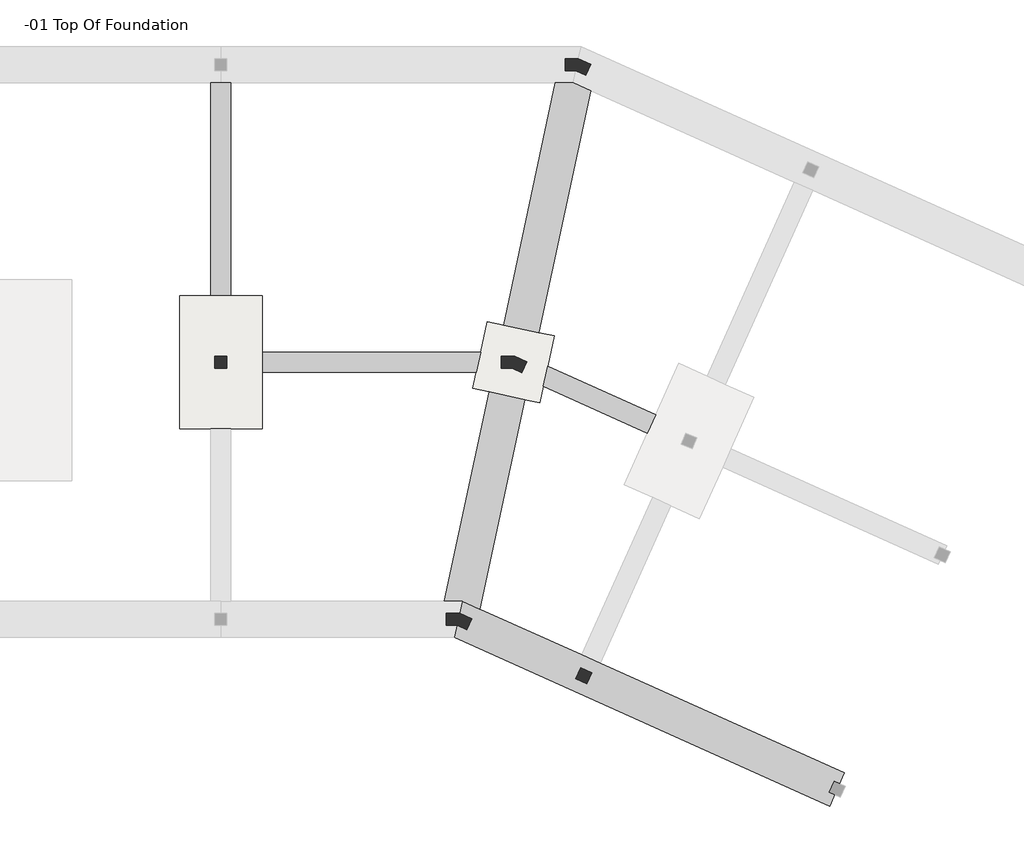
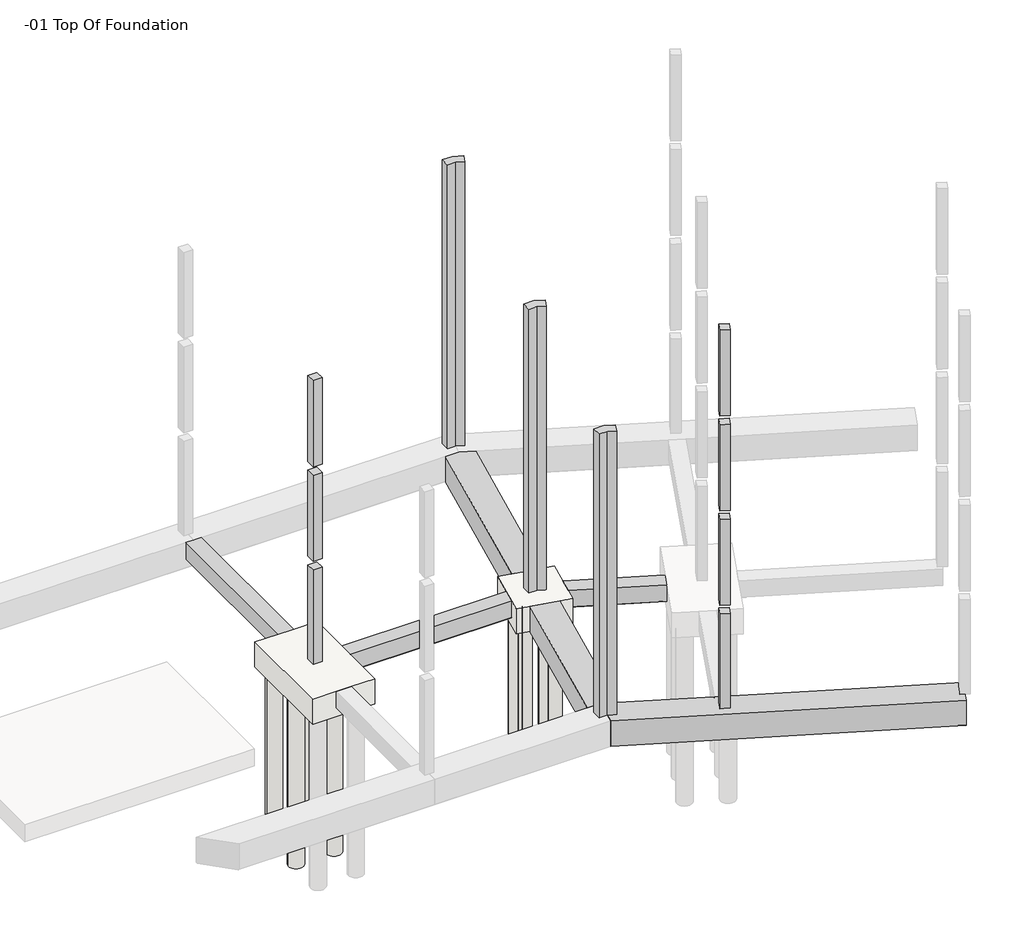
# One storey, part 3 of 4: 10 slabs, 5 beams, 5 columns.
"""IFC4 building model written with IfcOpenShell, lengths in millimetres."""

from ifc_helpers import new_model, si_unit, point, frame, frame_2d, origin, place, context, project, spatial, polyline, circle_curve, ellipse_curve, trimmed, segment, composite_curve, outline, extrude, faceted_brep, element, save
from ifc_brep_helpers import plane_surface, cylinder_surface, revolved_surface, advanced_brep

model = new_model("IFC4")

# Units and contexts
model_context = context("Model", 3, world=origin())
ifc_project = project(units=[si_unit("LENGTHUNIT", "METRE", prefix="MILLI")], contexts=[model_context])

# Site, building, storey
site = spatial("IfcSite", under=ifc_project)
building = spatial("IfcBuilding", under=site)
storey = spatial("IfcBuildingStorey", under=building, Name="-01 Top Of Foundation", Elevation=-304.8)

# Beams
placement = place(None, origin())
element("IfcBeam", 1, ObjectType="Ring Beam : 12 x 24", at=placement, inside=storey, context=model_context, shape_type="Brep", body=[
    faceted_brep([(30254.0535171, -7606.2877938, -304.8), (30145.1963742, -8114.2877938, -304.8), (32770.921512, -9293.7579091, -304.8), (32979.0776096, -8830.3627872, -304.8), (30145.1963742, -8114.2877938, -889.0), (32770.921512, -9293.7579091, -889.0), (30150.6392314, -8088.8877938, -914.4), (32781.3293169, -9270.588153, -914.4), (30248.61066, -7631.6877938, -914.4), (32968.6698047, -8853.5325433, -914.4), (30254.0535171, -7606.2877938, -889.0), (32979.0776096, -8830.3627872, -889.0)], [[[0, 1, 2, 3]], [[1, 4, 5, 2]], [[4, 6, 7, 5]], [[6, 8, 9, 7]], [[8, 10, 11, 9]], [[10, 0, 3, 11]], [[1, 0, 10, 8, 6, 4]], [[3, 2, 5, 7, 9, 11]]]),
])
element("IfcBeam", 2, ObjectType="Ring Beam : 12 x 24", at=placement, inside=storey, context=model_context, shape_type="Brep", body=[
    faceted_brep([(23050.5, -7251.7, -304.8), (23050.5, -7759.7, -304.8), (28454.7694343, -7759.7, -304.8), (28563.6265772, -7251.7, -304.8), (23050.5, -7759.7, -889.0), (28454.7694343, -7759.7, -889.0), (23050.5, -7734.3, -914.4), (28460.2122914, -7734.3, -914.4), (23050.5, -7277.1, -914.4), (28558.18372, -7277.1, -914.4), (23050.5, -7251.7, -889.0), (28563.6265772, -7251.7, -889.0)], [[[0, 1, 2, 3]], [[1, 4, 5, 2]], [[4, 6, 7, 5]], [[6, 8, 9, 7]], [[8, 10, 11, 9]], [[10, 0, 3, 11]], [[1, 0, 10, 8, 6, 4]], [[3, 2, 5, 7, 9, 11]]]),
])
element("IfcBeam", 3, ObjectType="Ring Beam : 12 x 24", at=placement, inside=storey, context=model_context, shape_type="Brep", body=[
    faceted_brep([(22263.1, -457.2, -304.8), (22009.1, -457.2, -304.8), (21755.1, -457.2, -304.8), (21755.1, -5829.3, -304.8), (22263.1, -5829.3, -304.8), (22263.1, -457.2, -889.0), (22263.1, -5829.3, -889.0), (22237.7, -457.2, -914.4), (22237.7, -5829.3, -914.4), (21780.5, -457.2, -914.4), (21780.5, -5829.3, -914.4), (21755.1, -457.2, -889.0), (21755.1, -5829.3, -889.0)], [[[0, 1, 2, 3, 4]], [[5, 0, 4, 6]], [[7, 5, 6, 8]], [[9, 7, 8, 10]], [[11, 9, 10, 12]], [[2, 11, 12, 3]], [[0, 5, 7, 9, 11, 2, 1]], [[4, 3, 12, 10, 8, 6]]]),
])
element("IfcBeam", 4, ObjectType="Ring Beam : 16 x 32", at=placement, inside=storey, context=model_context, shape_type="Brep", body=[
    faceted_brep([(28099.7244536, -13538.2, -304.8), (28034.4101679, -13843.0, -304.8), (27969.0988162, -14147.786308, -304.8), (27903.7815965, -14452.6, -304.8), (37370.2819449, -18704.9317073, -304.8), (37474.3599937, -18473.2341463, -304.8), (37744.9629205, -17870.8204878, -304.8), (31581.8077985, -15102.3443902, -304.8), (31118.4126766, -14894.1882927, -304.8), (28542.523194, -13737.104247, -304.8), (27903.7815965, -14452.6, -1193.8), (37370.2819449, -18704.9317073, -1193.8), (27909.2244536, -14427.2, -1219.2), (37380.6897498, -18681.7619512, -1219.2), (28094.2815965, -13563.6, -1219.2), (28513.3845925, -13751.8601693, -1219.2), (37734.5551156, -17893.9902439, -1219.2), (28099.7244536, -13538.2, -1193.8), (28542.523194, -13737.104247, -1193.8), (37744.9629205, -17870.8204878, -1193.8)], [[[0, 1, 2, 3, 4, 5, 6, 7, 8, 9]], [[3, 10, 11, 4]], [[10, 12, 13, 11]], [[12, 14, 15, 16, 13]], [[14, 17, 18, 19, 16, 15]], [[17, 0, 9, 8, 7, 6, 19, 18]], [[0, 17, 14, 12, 10, 3, 2, 1]], [[4, 11, 13, 16, 19, 6, 5]]]),
])
element("IfcBeam", 5, ObjectType="Ring Beam : 16 x 32", at=placement, inside=storey, context=model_context, shape_type="AdvancedBrep", body=[
    advanced_brep(
    [(31345.5946226, -656.104247, -304.8), (30902.7958822, -457.2, -304.8), (30453.0587055, -457.2, -304.8), (29143.3597284, -6569.12856, -304.8), (30037.4622558, -6760.7219587, -304.8), (31345.5946226, -656.104247, -1193.8), (30037.4622558, -6760.7219587, -1193.8), (31327.3417353, -620.0601693, -1219.2), (29994.728735, -6960.1450558, -1193.8), (29970.017132, -6954.2416514, -1219.2), (28513.3845925, -13751.8601693, -1219.2), (28094.2815965, -13563.6, -1219.2), (27670.521038, -13563.6, -1219.2), (28849.8308143, -8060.1543772, -1219.2), (29048.2445125, -7899.5308752, -1219.2), (28933.0689643, -7671.7096775, -1219.2), (29041.4242131, -7166.0518498, -1219.2), (29239.8379112, -7005.4283477, -1219.2), (29124.662363, -6777.60715, -1219.2), (30484.4781809, -431.8, -1219.2), (30908.2387393, -431.8, -1219.2), (29736.5615376, -7111.8691248, -1219.2), (29884.9297736, -7351.3159905, -1219.2), (29778.4237333, -7848.3441788, -1219.2), (29544.9681388, -8005.9716523, -1219.2), (29693.3363749, -8245.418518, -1219.2), (30453.0587055, -457.2, -1193.8), (29100.6262076, -6768.551657, -1193.8), (29143.3597284, -6569.12856, -1193.8), (28542.523194, -13737.104247, -1193.8), (28099.7244536, -13538.2, -1193.8), (28542.523194, -13737.104247, -304.8), (28099.7244536, -13538.2, -304.8), (30902.7958822, -457.2, -1193.8), (27649.987277, -13538.2, -1193.8), (27649.987277, -13538.2, -304.8), (28781.4610863, -8257.9888896, -1193.8), (29675.5636138, -8449.5822883, -1193.8), (29718.2971346, -8250.1591913, -1193.8), (29544.9681388, -8005.9716523, -1193.8), (29803.1353363, -7854.2475832, -1193.8), (29909.8905333, -7356.0566638, -1193.8), (29736.5615376, -7111.8691248, -1193.8), (29239.8379112, -7005.4283477, -1193.8), (29015.7880059, -7164.4632651, -1193.8), (28909.0328089, -7662.6541845, -1193.8), (29048.2445125, -7899.5308752, -1193.8), (28824.1946071, -8058.5657925, -1193.8), (28781.4610863, -8257.9888896, -304.8), (29675.5636138, -8449.5822883, -304.8)],
    [
        (0, 1),
        (1, 2),
        (2, 3),
        (3, 4),
        (4, 0),
        (5, 0),
        (4, 6),
        (6, 5),
        (7, 5),
        (6, 8),
        (8, 9, ellipse_curve(frame((29935.2509881, -7154.4454357, -1211.245903), z_axis=(-0.691410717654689, 0.14815943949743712, 0.7071067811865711), x_axis=(0.691410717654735, -0.14815943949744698, 0.7071067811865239)), 287.3681959, 203.2)),
        (9, 7),
        (10, 11),
        (11, 12),
        (12, 13),
        (13, 14, circle_curve(frame((28849.5550619, -7856.9545643, -1219.2), z_axis=(0.0, 0.0, 1.0), x_axis=(-0.977802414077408, 0.20952908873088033, 0.0)), 203.2)),
        (14, 15, circle_curve(frame((28849.5550619, -7856.9545643, -1219.2), z_axis=(0.0, 0.0, 1.0), x_axis=(-0.977802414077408, 0.20952908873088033, 0.0)), 203.2)),
        (15, 16),
        (16, 17, circle_curve(frame((29041.1484607, -6962.8520369, -1219.2), z_axis=(0.0, 0.0, 1.0), x_axis=(-0.977802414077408, 0.20952908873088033, 0.0)), 203.2)),
        (17, 18, circle_curve(frame((29041.1484607, -6962.8520369, -1219.2), z_axis=(0.0, 0.0, 1.0), x_axis=(-0.977802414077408, 0.20952908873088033, 0.0)), 203.2)),
        (18, 19),
        (19, 20),
        (20, 7),
        (9, 21, circle_curve(frame((29935.2509881, -7154.4454357, -1219.2), z_axis=(0.0, 0.0, 1.0), x_axis=(-0.977802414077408, 0.20952908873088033, 0.0)), 203.2)),
        (21, 22, circle_curve(frame((29935.2509881, -7154.4454357, -1219.2), z_axis=(0.0, 0.0, 1.0), x_axis=(-0.977802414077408, 0.20952908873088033, 0.0)), 203.2)),
        (22, 23),
        (23, 24, circle_curve(frame((29743.6575894, -8048.5479631, -1219.2), z_axis=(0.0, 0.0, 1.0), x_axis=(-0.977802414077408, 0.20952908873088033, 0.0)), 203.2)),
        (24, 25, circle_curve(frame((29743.6575894, -8048.5479631, -1219.2), z_axis=(0.0, 0.0, 1.0), x_axis=(-0.977802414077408, 0.20952908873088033, 0.0)), 203.2)),
        (25, 10),
        (26, 19),
        (18, 27, ellipse_curve(frame((29041.1484607, -6962.8520369, -1176.354097), z_axis=(0.691410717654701, -0.14815943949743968, 0.7071067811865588), x_axis=(-0.691410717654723, 0.1481594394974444, 0.7071067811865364)), 287.3681959, 203.2)),
        (27, 28),
        (28, 26),
        (2, 26),
        (28, 3),
        (29, 30),
        (30, 11),
        (10, 29),
        (29, 31),
        (31, 32),
        (32, 30),
        (5, 33),
        (33, 1),
        (20, 33),
        (33, 26),
        (30, 34),
        (34, 12),
        (32, 35),
        (35, 34),
        (36, 37),
        (37, 38),
        (38, 39, circle_curve(frame((29743.6575894, -8048.5479631, -1193.8), z_axis=(0.0, 0.0, -1.0), x_axis=(-0.977802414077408, 0.20952908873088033, 0.0)), 203.2)),
        (39, 40, circle_curve(frame((29743.6575894, -8048.5479631, -1193.8), z_axis=(0.0, 0.0, -1.0), x_axis=(-0.977802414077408, 0.20952908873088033, 0.0)), 203.2)),
        (40, 41),
        (41, 42, circle_curve(frame((29935.2509881, -7154.4454357, -1193.8), z_axis=(0.0, 0.0, -1.0), x_axis=(-0.977802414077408, 0.20952908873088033, 0.0)), 203.2)),
        (42, 8, circle_curve(frame((29935.2509881, -7154.4454357, -1193.8), z_axis=(0.0, 0.0, -1.0), x_axis=(-0.977802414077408, 0.20952908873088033, 0.0)), 203.2)),
        (6, 28),
        (27, 43, circle_curve(frame((29041.1484607, -6962.8520369, -1193.8), z_axis=(0.0, 0.0, -1.0), x_axis=(-0.977802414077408, 0.20952908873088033, 0.0)), 203.2)),
        (43, 44, circle_curve(frame((29041.1484607, -6962.8520369, -1193.8), z_axis=(0.0, 0.0, -1.0), x_axis=(-0.977802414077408, 0.20952908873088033, 0.0)), 203.2)),
        (44, 45),
        (45, 46, circle_curve(frame((28849.5550619, -7856.9545643, -1193.8), z_axis=(0.0, 0.0, -1.0), x_axis=(-0.977802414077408, 0.20952908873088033, 0.0)), 203.2)),
        (46, 47, circle_curve(frame((28849.5550619, -7856.9545643, -1193.8), z_axis=(0.0, 0.0, -1.0), x_axis=(-0.977802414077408, 0.20952908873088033, 0.0)), 203.2)),
        (47, 36),
        (36, 48),
        (48, 49),
        (49, 37),
        (31, 49),
        (48, 35),
        (29, 37),
        (36, 34),
        (39, 24),
        (23, 40, ellipse_curve(frame((29743.6575894, -8048.5479631, -1211.245903), z_axis=(0.691410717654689, -0.14815943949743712, -0.7071067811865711), x_axis=(0.691410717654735, -0.14815943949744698, 0.7071067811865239)), 287.3681959, 203.2)),
        (38, 25, ellipse_curve(frame((29743.6575894, -8048.5479631, -1211.245903), z_axis=(0.691410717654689, -0.14815943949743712, -0.7071067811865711), x_axis=(0.691410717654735, -0.14815943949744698, 0.7071067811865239)), 287.3681959, 203.2)),
        (42, 21),
        (41, 22, ellipse_curve(frame((29935.2509881, -7154.4454357, -1211.245903), z_axis=(0.691410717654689, -0.14815943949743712, -0.7071067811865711), x_axis=(0.691410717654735, -0.14815943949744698, 0.7071067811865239)), 287.3681959, 203.2)),
        (17, 43),
        (16, 44, ellipse_curve(frame((29041.1484607, -6962.8520369, -1176.354097), z_axis=(-0.691410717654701, 0.14815943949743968, -0.7071067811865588), x_axis=(-0.691410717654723, 0.1481594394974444, 0.7071067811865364)), 287.3681959, 203.2)),
        (15, 45, ellipse_curve(frame((28849.5550619, -7856.9545643, -1176.354097), z_axis=(0.691410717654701, -0.14815943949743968, 0.7071067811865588), x_axis=(-0.691410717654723, 0.1481594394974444, 0.7071067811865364)), 287.3681959, 203.2)),
        (14, 46),
        (13, 47, ellipse_curve(frame((28849.5550619, -7856.9545643, -1176.354097), z_axis=(-0.691410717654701, 0.14815943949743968, -0.7071067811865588), x_axis=(-0.691410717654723, 0.1481594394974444, 0.7071067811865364)), 287.3681959, 203.2)),
    ],
    [
        plane_surface(frame((30448.8310757, -476.928939, -304.8), z_axis=(0.0, 0.0, 1.0), x_axis=(-0.20952908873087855, -0.9778024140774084, 0.0))),
        plane_surface(frame((31342.9336032, -668.5223377, -304.8), z_axis=(0.9778024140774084, -0.20952908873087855, 0.0), x_axis=(-0.20952908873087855, -0.9778024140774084, 0.0))),
        plane_surface(frame((31342.9336032, -668.5223377, -1193.8), z_axis=(0.691410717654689, -0.14815943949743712, -0.7071067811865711), x_axis=(-0.20952908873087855, -0.9778024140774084, 0.0))),
        plane_surface(frame((31318.0974219, -663.2002988, -1219.2), z_axis=(0.0, 0.0, -1.0), x_axis=(-0.20952908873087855, -0.9778024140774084, 0.0))),
        plane_surface(frame((30473.6672571, -482.2509778, -1219.2), z_axis=(-0.691410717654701, 0.14815943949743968, -0.7071067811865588), x_axis=(-0.20952908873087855, -0.9778024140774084, 0.0))),
        plane_surface(frame((30448.8310757, -476.928939, -1193.8), z_axis=(-0.9778024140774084, 0.20952908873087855, 0.0), x_axis=(-0.20952908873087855, -0.9778024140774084, 0.0))),
        plane_surface(frame((37722.9702376, -17888.7863415, -1219.2), z_axis=(-0.28974131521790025, -0.6450193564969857, 0.7071067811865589), x_axis=(-0.9121951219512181, 0.4097560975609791, 0.0))),
        plane_surface(frame((37733.3780425, -17865.6165854, -1193.8), z_axis=(-0.4097560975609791, -0.9121951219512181, 0.0), x_axis=(-0.9121951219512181, 0.4097560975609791, 0.0))),
        plane_surface(frame((43093.3975546, -5933.1921951, -304.8), z_axis=(0.4097560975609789, 0.9121951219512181, 0.0), x_axis=(-0.9121951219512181, 0.4097560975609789, 0.0))),
        plane_surface(frame((43093.3975546, -5933.1921951, -1193.8), z_axis=(0.2897413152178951, 0.6450193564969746, 0.7071067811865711), x_axis=(-0.9121951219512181, 0.4097560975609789, 0.0))),
        plane_surface(frame((30800.7268229, -457.2, -304.8), z_axis=(0.0, 1.0, 0.0), x_axis=(-1.0, 0.0, 0.0))),
        plane_surface(frame((30800.7268229, -457.2, -1193.8), z_axis=(0.0, 0.707106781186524, 0.7071067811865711), x_axis=(-1.0, 0.0, 0.0))),
        plane_surface(frame((27801.7125372, -13563.6, -1219.2), z_axis=(0.0, -0.7071067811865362, 0.7071067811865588), x_axis=(-1.0, 0.0, 0.0))),
        plane_surface(frame((27801.7125372, -13538.2, -1193.8), z_axis=(0.0, -1.0, 0.0), x_axis=(-1.0, 0.0, 0.0))),
        plane_surface(frame((30055.8838688, -8531.0794858, -1193.8), z_axis=(0.0, 0.0, 1.0000000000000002), x_axis=(-0.9778024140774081, 0.20952908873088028, 0.0))),
        plane_surface(frame((28367.0235392, -8169.1808438, -304.8), z_axis=(0.20952908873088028, 0.9778024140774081, 0.0), x_axis=(0.0, 0.0, -1.0))),
        plane_surface(frame((30417.7825109, -6842.2191562, -304.8), z_axis=(-0.20952908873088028, -0.9778024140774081, 0.0), x_axis=(0.0, 0.0, -1.0))),
        revolved_surface(polyline([(29544.968138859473, -8005.9716522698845, -1008.045902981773), (29544.968138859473, -8005.9716522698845, -1414.445903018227)]), (29743.6575894, -8048.5479631, -6070.6), (0.0, 0.0, 1.0)),
        revolved_surface(polyline([(29736.56153755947, -7111.869124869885, -1008.045902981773), (29736.56153755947, -7111.869124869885, -1414.445903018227)]), (29935.2509881, -7154.4454357, -6070.6), (0.0, 0.0, 1.0)),
        revolved_surface(polyline([(28842.45901015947, -6920.2757260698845, -973.1540969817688), (28842.45901015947, -6920.2757260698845, -1379.55409701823)]), (29041.1484607, -6962.8520369, -6070.6), (0.0, 0.0, 1.0)),
        revolved_surface(polyline([(28650.86561135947, -7814.378253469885, -973.1540969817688), (28650.86561135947, -7814.378253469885, -1379.55409701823)]), (28849.5550619, -7856.9545643, -6070.6), (0.0, 0.0, 1.0)),
    ],
    [
        (0, [[1, 2, 3, 4, 5]]),
        (1, [[6, -5, 7, 8]]),
        (2, [[9, -8, 10, 11, 12]]),
        (3, [[13, 14, 15, 16, 17, 18, 19, 20, 21, 22, 23, -12, 24, 25, 26, 27, 28, 29]]),
        (4, [[30, -21, 31, 32, 33]]),
        (5, [[34, -33, 35, -3]]),
        (6, [[36, 37, -13, 38]]),
        (7, [[-36, 39, 40, 41]]),
        (8, [[42, 43, -1, -6]]),
        (9, [[-42, -9, -23, 44]]),
        (10, [[45, -34, -2, -43]]),
        (11, [[-45, -44, -22, -30]]),
        (12, [[46, 47, -14, -37]]),
        (13, [[-46, -41, 48, 49]]),
        (14, [[50, 51, 52, 53, 54, 55, 56, -10, 57, -32, 58, 59, 60, 61, 62, 63]]),
        (15, [[-50, 64, 65, 66]]),
        (16, [[-57, -7, -4, -35]]),
        (0, [[-40, 67, -65, 68, -48]]),
        (1, [[-39, 69, -66, -67]]),
        (5, [[-49, -68, -64, 70]]),
        (17, [[71, -27, 72, -53]]),
        (17, [[-71, -52, 73, -28]]),
        (2, [[-38, -29, -73, -51, -69]]),
        (18, [[74, -24, -11, -56]]),
        (18, [[-74, -55, 75, -25]]),
        (2, [[-72, -26, -75, -54]]),
        (19, [[76, -58, -31, -20]]),
        (19, [[-76, -19, 77, -59]]),
        (4, [[-77, -18, 78, -60]]),
        (20, [[79, -61, -78, -17]]),
        (20, [[-79, -16, 80, -62]]),
        (4, [[-47, -70, -63, -80, -15]]),
    ],
),
])

# Columns
element("IfcColumn", 6, ObjectType="Cranked Corner Column : CC1", at=placement, inside=storey, context=model_context, shape_type="Brep", body=[
    faceted_brep([(30695.9673107, 152.4, -304.8), (31033.3910427, 152.4, -304.8), (31341.2512132, 14.124878, -304.8), (31216.3575546, -263.9121951, -304.8), (30968.1435788, -152.4, -304.8), (30695.9673107, -152.4, -304.8), (30695.9673107, 152.4, 9753.6), (31033.3910427, 152.4, 9753.6), (31341.2512132, 14.124878, 9753.6), (31341.2512132, 14.124878, 6705.6), (31341.2512132, 14.124878, 6400.8), (31341.2512132, 14.124878, 3352.8), (31341.2512132, 14.124878, 3048.0), (31341.2512132, 14.124878, 0.0), (31216.3575546, -263.9121951, 9753.6), (31216.3575546, -263.9121951, 6705.6), (31216.3575546, -263.9121951, 6400.8), (31216.3575546, -263.9121951, 3352.8), (31216.3575546, -263.9121951, 3048.0), (31216.3575546, -263.9121951, 0.0), (30968.1435788, -152.4, 9753.6), (30695.9673107, -152.4, 9753.6)], [[[0, 1, 2, 3, 4, 5]], [[6, 7, 1, 0]], [[7, 8, 9, 10, 11, 12, 13, 2, 1]], [[8, 14, 15, 16, 17, 18, 19, 3, 2, 13, 12, 11, 10, 9]], [[14, 20, 4, 3, 19, 18, 17, 16, 15]], [[20, 21, 5, 4]], [[21, 6, 0, 5]], [[6, 21, 20, 14, 8, 7]]]),
])
element("IfcColumn", 7, ObjectType="Cranked Corner Column : CC1", at=placement, inside=storey, context=model_context, shape_type="Brep", body=[
    faceted_brep([(29087.603025, -7353.3, -304.8), (29425.026757, -7353.3, -304.8), (29732.8869275, -7491.575122, -304.8), (29607.9932689, -7769.6121951, -304.8), (29359.7792931, -7658.1, -304.8), (29087.603025, -7658.1, -304.8), (29087.603025, -7353.3, 9753.6), (29425.026757, -7353.3, 9753.6), (29732.8869275, -7491.575122, 9753.6), (29732.8869275, -7491.575122, 6705.6), (29732.8869275, -7491.575122, 6400.8), (29732.8869275, -7491.575122, 3352.8), (29732.8869275, -7491.575122, 3048.0), (29732.8869275, -7491.575122, 0.0), (29607.9932689, -7769.6121951, 9753.6), (29607.9932689, -7769.6121951, 6705.6), (29607.9932689, -7769.6121951, 6400.8), (29607.9932689, -7769.6121951, 3352.8), (29607.9932689, -7769.6121951, 3048.0), (29607.9932689, -7769.6121951, 0.0), (29359.7792931, -7658.1, 9753.6), (29087.603025, -7658.1, 9753.6)], [[[0, 1, 2, 3, 4, 5]], [[6, 7, 1, 0]], [[7, 8, 9, 10, 11, 12, 13, 2, 1]], [[8, 14, 15, 16, 17, 18, 19, 3, 2, 13, 12, 11, 10, 9]], [[14, 20, 4, 3, 19, 18, 17, 16, 15]], [[20, 21, 5, 4]], [[21, 6, 0, 5]], [[6, 21, 20, 14, 8, 7]]]),
])
element("IfcColumn", 8, ObjectType="Cranked Corner Column : CC1", at=placement, inside=storey, context=model_context, shape_type="Brep", body=[
    faceted_brep([(27696.953025, -13843.0, -304.8), (28034.376757, -13843.0, -304.8), (28342.2369275, -13981.275122, -304.8), (28217.3432689, -14259.3121951, -304.8), (27969.1292931, -14147.8, -304.8), (27696.953025, -14147.8, -304.8), (27696.953025, -13843.0, 9753.6), (28034.376757, -13843.0, 9753.6), (28342.2369275, -13981.275122, 9753.6), (28342.2369275, -13981.275122, 6705.6), (28342.2369275, -13981.275122, 6400.8), (28342.2369275, -13981.275122, 3352.8), (28342.2369275, -13981.275122, 3048.0), (28342.2369275, -13981.275122, 0.0), (28217.3432689, -14259.3121951, 9753.6), (28217.3432689, -14259.3121951, 6705.6), (28217.3432689, -14259.3121951, 6400.8), (28217.3432689, -14259.3121951, 3352.8), (28217.3432689, -14259.3121951, 3048.0), (28217.3432689, -14259.3121951, 0.0), (27969.1292931, -14147.8, 9753.6), (27696.953025, -14147.8, 9753.6)], [[[0, 1, 2, 3, 4, 5]], [[6, 7, 1, 0]], [[7, 8, 9, 10, 11, 12, 13, 2, 1]], [[8, 14, 15, 16, 17, 18, 19, 3, 2, 13, 12, 11, 10, 9]], [[14, 20, 4, 3, 19, 18, 17, 16, 15]], [[20, 21, 5, 4]], [[21, 6, 0, 5]], [[6, 21, 20, 14, 8, 7]]]),
])
element("IfcColumn", 9, ObjectType="Concrete-Rectangular-Column : 12 x 12", at=placement, inside=storey, context=model_context, shape_type="Brep", body=[
    faceted_brep([(22161.5, -7353.3, -304.8), (22161.5, -7658.1, -304.8), (21856.7, -7658.1, -304.8), (21856.7, -7353.3, -304.8), (22161.5, -7658.1, 3048.0), (22161.5, -7353.3, 3048.0), (21856.7, -7353.3, 3048.0), (21856.7, -7658.1, 3048.0), (22161.5, -7353.3, 0.0), (22161.5, -7658.1, 0.0), (21856.7, -7658.1, 0.0), (21856.7, -7353.3, 0.0)], [[[0, 1, 2, 3]], [[4, 5, 6, 7]], [[1, 0, 8, 5, 4, 9]], [[2, 1, 9, 4, 7, 10]], [[3, 2, 10, 7, 6, 11]], [[0, 3, 11, 6, 5, 8]]]),
    faceted_brep([(22161.5, -7658.1, 6705.6), (22161.5, -7353.3, 6705.6), (22161.5, -7353.3, 9753.6), (22161.5, -7658.1, 9753.6), (21856.7, -7658.1, 6705.6), (21856.7, -7658.1, 9753.6), (21856.7, -7353.3, 6705.6), (21856.7, -7353.3, 9753.6)], [[[0, 1, 2, 3]], [[4, 0, 3, 5]], [[6, 4, 5, 7]], [[1, 6, 7, 2]], [[1, 0, 4, 6]], [[3, 2, 7, 5]]]),
    faceted_brep([(22161.5, -7658.1, 6400.8), (22161.5, -7353.3, 6400.8), (21856.7, -7353.3, 6400.8), (21856.7, -7658.1, 6400.8), (22161.5, -7658.1, 3352.8), (22161.5, -7353.3, 3352.8), (21856.7, -7658.1, 3352.8), (21856.7, -7353.3, 3352.8)], [[[0, 1, 2, 3]], [[1, 0, 4, 5]], [[0, 3, 6, 4]], [[3, 2, 7, 6]], [[2, 1, 5, 7]], [[5, 4, 6, 7]]]),
])
element("IfcColumn", 10, ObjectType="Concrete-Rectangular-Column : 12 x 12", at=placement, inside=storey, context=model_context, shape_type="Brep", body=[
    faceted_brep([(31086.1980425, -15213.8565854, -304.8), (31364.2351156, -15338.7502439, -304.8), (31239.3414571, -15616.7873171, -304.8), (30961.3043839, -15491.8936585, -304.8), (31364.2351156, -15338.7502439, 3048.0), (31086.1980425, -15213.8565854, 3048.0), (30961.3043839, -15491.8936585, 3048.0), (31239.3414571, -15616.7873171, 3048.0), (31086.1980425, -15213.8565854, 0.0), (31364.2351156, -15338.7502439, 0.0), (31239.3414571, -15616.7873171, 0.0), (30961.3043839, -15491.8936585, 0.0)], [[[0, 1, 2, 3]], [[4, 5, 6, 7]], [[1, 0, 8, 5, 4, 9]], [[2, 1, 9, 4, 7, 10]], [[3, 2, 10, 7, 6, 11]], [[0, 3, 11, 6, 5, 8]]]),
    faceted_brep([(31364.2351156, -15338.7502439, 10058.4), (31086.1980425, -15213.8565854, 10058.4), (31086.1980425, -15213.8565854, 13106.4), (31364.2351156, -15338.7502439, 13106.4), (31239.3414571, -15616.7873171, 10058.4), (31239.3414571, -15616.7873171, 13106.4), (30961.3043839, -15491.8936585, 10058.4), (30961.3043839, -15491.8936585, 13106.4)], [[[0, 1, 2, 3]], [[4, 0, 3, 5]], [[6, 4, 5, 7]], [[1, 6, 7, 2]], [[1, 0, 4, 6]], [[3, 2, 7, 5]]]),
    faceted_brep([(31086.1980425, -15213.8565854, 3352.8), (31364.2351156, -15338.7502439, 3352.8), (31239.3414571, -15616.7873171, 3352.8), (30961.3043839, -15491.8936585, 3352.8), (31364.2351156, -15338.7502439, 6400.8), (31086.1980425, -15213.8565854, 6400.8), (30961.3043839, -15491.8936585, 6400.8), (31239.3414571, -15616.7873171, 6400.8)], [[[0, 1, 2, 3]], [[4, 5, 6, 7]], [[1, 0, 5, 4]], [[2, 1, 4, 7]], [[3, 2, 7, 6]], [[0, 3, 6, 5]]]),
    faceted_brep([(31086.1980425, -15213.8565854, 6705.6), (31364.2351156, -15338.7502439, 6705.6), (31239.3414571, -15616.7873171, 6705.6), (30961.3043839, -15491.8936585, 6705.6), (31364.2351156, -15338.7502439, 9753.6), (31086.1980425, -15213.8565854, 9753.6), (30961.3043839, -15491.8936585, 9753.6), (31239.3414571, -15616.7873171, 9753.6)], [[[0, 1, 2, 3]], [[4, 5, 6, 7]], [[1, 0, 5, 4]], [[2, 1, 4, 7]], [[3, 2, 7, 6]], [[0, 3, 6, 5]]]),
])

# Slabs
element("IfcSlab", 11, ObjectType="Pile Cap-4 Pile : 68\"x68\"x35\"", at=placement, inside=storey, context=model_context, shape_type="Brep", body=[
    faceted_brep([(28367.0235392, -8169.1808438, -304.8), (28781.4610863, -8257.9888896, -304.8), (29675.5636138, -8449.5822883, -304.8), (30055.8838688, -8531.0794858, -304.8), (30145.1963742, -8114.2877938, -304.8), (30254.0535171, -7606.2877938, -304.8), (30417.7825109, -6842.2191562, -304.8), (30037.4622558, -6760.7219587, -304.8), (29143.3597284, -6569.12856, -304.8), (28728.9221813, -6480.3205142, -304.8), (28563.6265772, -7251.7, -304.8), (28454.7694343, -7759.7, -304.8), (28367.0235392, -8169.1808438, -1193.8), (28728.9221813, -6480.3205142, -1193.8), (29143.3597284, -6569.12856, -1193.8), (30037.4622558, -6760.7219587, -1193.8), (30417.7825109, -6842.2191562, -1193.8), (30055.8838688, -8531.0794858, -1193.8), (29675.5636138, -8449.5822883, -1193.8), (28781.4610863, -8257.9888896, -1193.8)], [[[0, 1, 2, 3, 4, 5, 6, 7, 8, 9, 10, 11]], [[12, 13, 14, 15, 16, 17, 18, 19]], [[3, 2, 1, 0, 12, 19, 18, 17]], [[6, 5, 4, 3, 17, 16]], [[9, 8, 7, 6, 16, 15, 14, 13]], [[0, 11, 10, 9, 13, 12]]]),
])
element("IfcSlab", 12, ObjectType="Pile Cap-6 Pile : 132\"x82\"x35\"", at=placement, inside=storey, context=model_context, shape_type="Brep", body=[
    faceted_brep([(20967.7, -9182.1, -304.8), (21755.1, -9182.1, -304.8), (22263.1, -9182.1, -304.8), (23050.5, -9182.1, -304.8), (23050.5, -7759.7, -304.8), (23050.5, -7251.7, -304.8), (23050.5, -5829.3, -304.8), (22263.1, -5829.3, -304.8), (21755.1, -5829.3, -304.8), (20967.7, -5829.3, -304.8), (20967.7, -7251.7, -304.8), (20967.7, -7759.7, -304.8), (20967.7, -9182.1, -1193.8), (20967.7, -5829.3, -1193.8), (23050.5, -5829.3, -1193.8), (23050.5, -9182.1, -1193.8)], [[[0, 1, 2, 3, 4, 5, 6, 7, 8, 9, 10, 11]], [[12, 13, 14, 15]], [[3, 2, 1, 0, 12, 15]], [[6, 5, 4, 3, 15, 14]], [[9, 8, 7, 6, 14, 13]], [[0, 11, 10, 9, 13, 12]]]),
])
element("IfcSlab", 13, ObjectType="Round In Situ Concrete Pile : 16\" Diameter 16'", at=placement, inside=storey, context=model_context, shape_type="AdvancedBrep", body=[
    advanced_brep(
    [(29942.3470399, -8091.1242739, -6070.6), (29544.9681388, -8005.9716523, -6070.6), (29544.9681388, -8005.9716523, -1193.8), (29803.1353363, -7854.2475832, -1193.8), (29942.3470399, -8091.1242739, -1193.8), (29718.2971346, -8250.1591913, -1193.8)],
    [
        (0, 1, circle_curve(frame((29743.6575894, -8048.5479631, -6070.6), z_axis=(0.0, 0.0, -1.0), x_axis=(-0.977802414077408, 0.20952908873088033, 0.0)), 203.2)),
        (1, 0, circle_curve(frame((29743.6575894, -8048.5479631, -6070.6), z_axis=(0.0, 0.0, -1.0), x_axis=(-0.977802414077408, 0.20952908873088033, 0.0)), 203.2)),
        (1, 2),
        (2, 3, circle_curve(frame((29743.6575894, -8048.5479631, -1193.8), z_axis=(0.0, 0.0, -1.0), x_axis=(-0.977802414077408, 0.20952908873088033, 0.0)), 203.2)),
        (3, 4, circle_curve(frame((29743.6575894, -8048.5479631, -1193.8), z_axis=(0.0, 0.0, -1.0), x_axis=(-0.977802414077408, 0.20952908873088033, 0.0)), 203.2)),
        (4, 0),
        (4, 5, circle_curve(frame((29743.6575894, -8048.5479631, -1193.8), z_axis=(0.0, 0.0, -1.0), x_axis=(-0.977802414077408, 0.20952908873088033, 0.0)), 203.2)),
        (5, 2, circle_curve(frame((29743.6575894, -8048.5479631, -1193.8), z_axis=(0.0, 0.0, -1.0), x_axis=(-0.977802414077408, 0.20952908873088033, 0.0)), 203.2)),
    ],
    [
        plane_surface(frame((29544.9681388, -8005.9716523, -6070.6), z_axis=(0.0, 0.0, -1.0), x_axis=(0.20952908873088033, 0.977802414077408, 0.0))),
        cylinder_surface(frame((29743.6575894, -8048.5479631, -6070.6), z_axis=(0.0, 0.0, 1.0), x_axis=(-0.977802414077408, 0.20952908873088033, 0.0)), 203.2),
        plane_surface(frame((30055.8838688, -8531.0794858, -1193.8), z_axis=(0.0, 0.0, 1.0000000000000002), x_axis=(-0.9778024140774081, 0.20952908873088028, 0.0))),
    ],
    [
        (0, [[1, 2]]),
        (1, [[-2, 3, 4, 5, 6]]),
        (1, [[-1, -6, 7, 8, -3]]),
        (2, [[-5, -4, -8, -7]]),
    ],
),
])
element("IfcSlab", 14, ObjectType="Round In Situ Concrete Pile : 16\" Diameter 16'", at=placement, inside=storey, context=model_context, shape_type="AdvancedBrep", body=[
    advanced_brep(
    [(30133.9404387, -7197.0217465, -6070.6), (29736.5615376, -7111.8691248, -6070.6), (29736.5615376, -7111.8691248, -1193.8), (29994.728735, -6960.1450558, -1193.8), (30133.9404387, -7197.0217465, -1193.8), (29909.8905333, -7356.0566638, -1193.8)],
    [
        (0, 1, circle_curve(frame((29935.2509881, -7154.4454357, -6070.6), z_axis=(0.0, 0.0, -1.0), x_axis=(-0.977802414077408, 0.20952908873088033, 0.0)), 203.2)),
        (1, 0, circle_curve(frame((29935.2509881, -7154.4454357, -6070.6), z_axis=(0.0, 0.0, -1.0), x_axis=(-0.977802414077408, 0.20952908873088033, 0.0)), 203.2)),
        (1, 2),
        (2, 3, circle_curve(frame((29935.2509881, -7154.4454357, -1193.8), z_axis=(0.0, 0.0, -1.0), x_axis=(-0.977802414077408, 0.20952908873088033, 0.0)), 203.2)),
        (3, 4, circle_curve(frame((29935.2509881, -7154.4454357, -1193.8), z_axis=(0.0, 0.0, -1.0), x_axis=(-0.977802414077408, 0.20952908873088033, 0.0)), 203.2)),
        (4, 0),
        (4, 5, circle_curve(frame((29935.2509881, -7154.4454357, -1193.8), z_axis=(0.0, 0.0, -1.0), x_axis=(-0.977802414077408, 0.20952908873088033, 0.0)), 203.2)),
        (5, 2, circle_curve(frame((29935.2509881, -7154.4454357, -1193.8), z_axis=(0.0, 0.0, -1.0), x_axis=(-0.977802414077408, 0.20952908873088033, 0.0)), 203.2)),
    ],
    [
        plane_surface(frame((29736.5615376, -7111.8691248, -6070.6), z_axis=(0.0, 0.0, -1.0), x_axis=(0.20952908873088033, 0.977802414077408, 0.0))),
        cylinder_surface(frame((29935.2509881, -7154.4454357, -6070.6), z_axis=(0.0, 0.0, 1.0), x_axis=(-0.977802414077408, 0.20952908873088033, 0.0)), 203.2),
        plane_surface(frame((30055.8838688, -8531.0794858, -1193.8), z_axis=(0.0, 0.0, 1.0000000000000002), x_axis=(-0.9778024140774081, 0.20952908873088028, 0.0))),
    ],
    [
        (0, [[1, 2]]),
        (1, [[-2, 3, 4, 5, 6]]),
        (1, [[-1, -6, 7, 8, -3]]),
        (2, [[-5, -4, -8, -7]]),
    ],
),
])
element("IfcSlab", 15, ObjectType="Round In Situ Concrete Pile : 16\" Diameter 16'", at=placement, inside=storey, context=model_context, shape_type="AdvancedBrep", body=[
    advanced_brep(
    [(29239.8379112, -7005.4283477, -6070.6), (28842.4590101, -6920.2757261, -6070.6), (28842.4590101, -6920.2757261, -1193.8), (29100.6262076, -6768.551657, -1193.8), (29239.8379112, -7005.4283477, -1193.8), (29015.7880059, -7164.4632651, -1193.8)],
    [
        (0, 1, circle_curve(frame((29041.1484607, -6962.8520369, -6070.6), z_axis=(0.0, 0.0, -1.0), x_axis=(-0.977802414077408, 0.20952908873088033, 0.0)), 203.2)),
        (1, 0, circle_curve(frame((29041.1484607, -6962.8520369, -6070.6), z_axis=(0.0, 0.0, -1.0), x_axis=(-0.977802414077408, 0.20952908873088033, 0.0)), 203.2)),
        (1, 2),
        (2, 3, circle_curve(frame((29041.1484607, -6962.8520369, -1193.8), z_axis=(0.0, 0.0, -1.0), x_axis=(-0.977802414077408, 0.20952908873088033, 0.0)), 203.2)),
        (3, 4, circle_curve(frame((29041.1484607, -6962.8520369, -1193.8), z_axis=(0.0, 0.0, -1.0), x_axis=(-0.977802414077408, 0.20952908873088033, 0.0)), 203.2)),
        (4, 0),
        (4, 5, circle_curve(frame((29041.1484607, -6962.8520369, -1193.8), z_axis=(0.0, 0.0, -1.0), x_axis=(-0.977802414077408, 0.20952908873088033, 0.0)), 203.2)),
        (5, 2, circle_curve(frame((29041.1484607, -6962.8520369, -1193.8), z_axis=(0.0, 0.0, -1.0), x_axis=(-0.977802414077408, 0.20952908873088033, 0.0)), 203.2)),
    ],
    [
        plane_surface(frame((28842.4590101, -6920.2757261, -6070.6), z_axis=(0.0, 0.0, -1.0), x_axis=(0.20952908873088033, 0.977802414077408, 0.0))),
        cylinder_surface(frame((29041.1484607, -6962.8520369, -6070.6), z_axis=(0.0, 0.0, 1.0), x_axis=(-0.977802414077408, 0.20952908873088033, 0.0)), 203.2),
        plane_surface(frame((30055.8838688, -8531.0794858, -1193.8), z_axis=(0.0, 0.0, 1.0000000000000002), x_axis=(-0.9778024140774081, 0.20952908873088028, 0.0))),
    ],
    [
        (0, [[1, 2]]),
        (1, [[-2, 3, 4, 5, 6]]),
        (1, [[-1, -6, 7, 8, -3]]),
        (2, [[-5, -4, -8, -7]]),
    ],
),
])
element("IfcSlab", 16, ObjectType="Round In Situ Concrete Pile : 16\" Diameter 16'", at=placement, inside=storey, context=model_context, shape_type="AdvancedBrep", body=[
    advanced_brep(
    [(29048.2445125, -7899.5308752, -6070.6), (28650.8656114, -7814.3782535, -6070.6), (28650.8656114, -7814.3782535, -1193.8), (28909.0328089, -7662.6541845, -1193.8), (29048.2445125, -7899.5308752, -1193.8), (28824.1946071, -8058.5657925, -1193.8)],
    [
        (0, 1, circle_curve(frame((28849.5550619, -7856.9545643, -6070.6), z_axis=(0.0, 0.0, -1.0), x_axis=(-0.977802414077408, 0.20952908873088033, 0.0)), 203.2)),
        (1, 0, circle_curve(frame((28849.5550619, -7856.9545643, -6070.6), z_axis=(0.0, 0.0, -1.0), x_axis=(-0.977802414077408, 0.20952908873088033, 0.0)), 203.2)),
        (1, 2),
        (2, 3, circle_curve(frame((28849.5550619, -7856.9545643, -1193.8), z_axis=(0.0, 0.0, -1.0), x_axis=(-0.977802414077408, 0.20952908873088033, 0.0)), 203.2)),
        (3, 4, circle_curve(frame((28849.5550619, -7856.9545643, -1193.8), z_axis=(0.0, 0.0, -1.0), x_axis=(-0.977802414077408, 0.20952908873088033, 0.0)), 203.2)),
        (4, 0),
        (4, 5, circle_curve(frame((28849.5550619, -7856.9545643, -1193.8), z_axis=(0.0, 0.0, -1.0), x_axis=(-0.977802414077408, 0.20952908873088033, 0.0)), 203.2)),
        (5, 2, circle_curve(frame((28849.5550619, -7856.9545643, -1193.8), z_axis=(0.0, 0.0, -1.0), x_axis=(-0.977802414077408, 0.20952908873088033, 0.0)), 203.2)),
    ],
    [
        plane_surface(frame((28650.8656114, -7814.3782535, -6070.6), z_axis=(0.0, 0.0, -1.0), x_axis=(0.20952908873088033, 0.977802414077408, 0.0))),
        cylinder_surface(frame((28849.5550619, -7856.9545643, -6070.6), z_axis=(0.0, 0.0, 1.0), x_axis=(-0.977802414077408, 0.20952908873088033, 0.0)), 203.2),
        plane_surface(frame((30055.8838688, -8531.0794858, -1193.8), z_axis=(0.0, 0.0, 1.0000000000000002), x_axis=(-0.9778024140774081, 0.20952908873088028, 0.0))),
    ],
    [
        (0, [[1, 2]]),
        (1, [[-2, 3, 4, 5, 6]]),
        (1, [[-1, -6, 7, 8, -3]]),
        (2, [[-5, -4, -8, -7]]),
    ],
),
])
element("IfcSlab", 17, ObjectType="Round In Situ Concrete Pile : 20\" Diameter", at=placement, inside=storey, context=model_context, shape_type="SweptSolid", body=[
    extrude(outline(composite_curve([segment(trimmed(circle_curve(frame_2d((22644.1, -6235.7)), 254.0), [point((22898.1, -6235.7))], [point((22390.1, -6235.7))], False, "CARTESIAN"), True, "CONTINUOUS"), segment(trimmed(circle_curve(frame_2d((22644.1, -6235.7)), 254.0), [point((22390.1, -6235.7))], [point((22898.1, -6235.7))], False, "CARTESIAN"), True, "CONTINUOUS")], self_intersect=False)), frame((0.0, 0.0, -7289.8), z_axis=(0.0, 0.0, 1.0), x_axis=(1.0, 0.0, 0.0)), (0.0, 0.0, 1.0), 6096.0),
])
element("IfcSlab", 18, ObjectType="Round In Situ Concrete Pile : 20\" Diameter", at=placement, inside=storey, context=model_context, shape_type="SweptSolid", body=[
    extrude(outline(composite_curve([segment(trimmed(circle_curve(frame_2d((21374.1, -6235.7)), 254.0), [point((21628.1, -6235.7))], [point((21120.1, -6235.7))], False, "CARTESIAN"), True, "CONTINUOUS"), segment(trimmed(circle_curve(frame_2d((21374.1, -6235.7)), 254.0), [point((21120.1, -6235.7))], [point((21628.1, -6235.7))], False, "CARTESIAN"), True, "CONTINUOUS")], self_intersect=False)), frame((0.0, 0.0, -7289.8), z_axis=(0.0, 0.0, 1.0), x_axis=(1.0, 0.0, 0.0)), (0.0, 0.0, 1.0), 6096.0),
])
element("IfcSlab", 19, ObjectType="Round In Situ Concrete Pile : 20\" Diameter", at=placement, inside=storey, context=model_context, shape_type="SweptSolid", body=[
    extrude(outline(composite_curve([segment(trimmed(circle_curve(frame_2d((22644.1, -7505.7)), 254.0), [point((22898.1, -7505.7))], [point((22390.1, -7505.7))], False, "CARTESIAN"), True, "CONTINUOUS"), segment(trimmed(circle_curve(frame_2d((22644.1, -7505.7)), 254.0), [point((22390.1, -7505.7))], [point((22898.1, -7505.7))], False, "CARTESIAN"), True, "CONTINUOUS")], self_intersect=False)), frame((0.0, 0.0, -7289.8), z_axis=(0.0, 0.0, 1.0), x_axis=(1.0, 0.0, 0.0)), (0.0, 0.0, 1.0), 6096.0),
])
element("IfcSlab", 20, ObjectType="Round In Situ Concrete Pile : 20\" Diameter", at=placement, inside=storey, context=model_context, shape_type="SweptSolid", body=[
    extrude(outline(composite_curve([segment(trimmed(circle_curve(frame_2d((21374.1, -7505.7)), 254.0), [point((21628.1, -7505.7))], [point((21120.1, -7505.7))], False, "CARTESIAN"), True, "CONTINUOUS"), segment(trimmed(circle_curve(frame_2d((21374.1, -7505.7)), 254.0), [point((21120.1, -7505.7))], [point((21628.1, -7505.7))], False, "CARTESIAN"), True, "CONTINUOUS")], self_intersect=False)), frame((0.0, 0.0, -7289.8), z_axis=(0.0, 0.0, 1.0), x_axis=(1.0, 0.0, 0.0)), (0.0, 0.0, 1.0), 6096.0),
])

save(model, "model.ifc")
